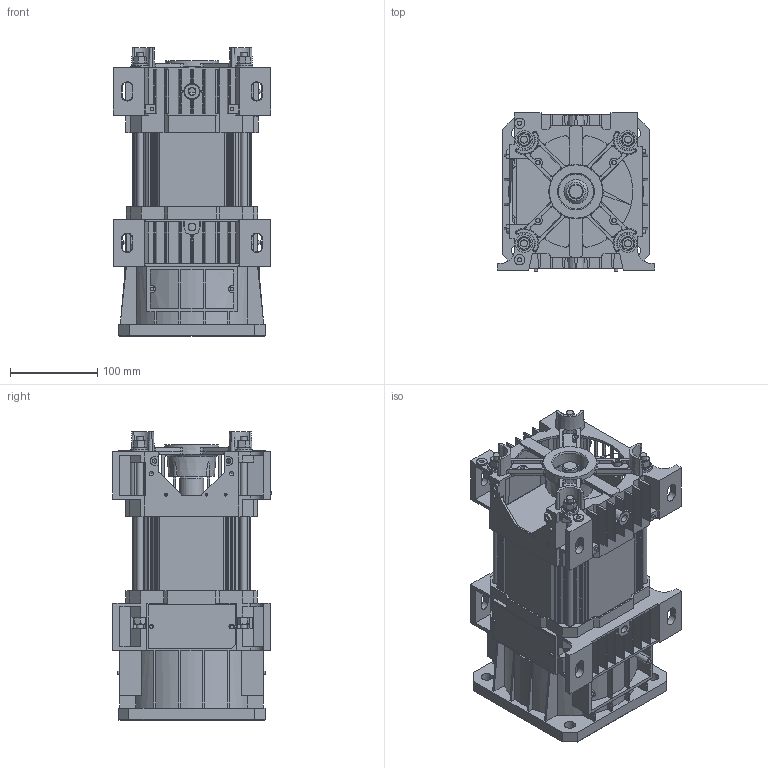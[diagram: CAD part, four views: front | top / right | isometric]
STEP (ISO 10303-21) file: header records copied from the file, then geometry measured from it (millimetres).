
FILE_DESCRIPTION(/* description */ ('Motore Tipo V34 Fl.155 F19-H95 SI Volano NO Piedi'),/* implementation_level */ '2;1');
FILE_NAME(/* name */ 'Y:\ServerTecnico\Mockup Motori x Sito Elmo\Mockup Tipo V34 Size 3 FL155 F19-H95 SI Volano.stp',/* time_stamp */ '2016-10-07T15:45:05+02:00',/* author */ ('aparmini'),/* organization */ (''),/* preprocessor_version */ 'ST-DEVELOPER v16.5',/* originating_system */ 'Autodesk Inventor 2017',/* authorisation */ '');
FILE_SCHEMA (('AUTOMOTIVE_DESIGN { 1 0 10303 214 3 1 1 }'));
Length unit declared in the file: millimetre
Products named in the file (8): Mockup Tipo V34 Size 3 FL155 F19-H95 SI Volano; Mockup CP3XD040N; Mockup CA3VD155N; Mockup Statore Size 3 - F19-H95 SI Volano; TGS10; TI08ML220; UNI 5587 - M8; DIN 125-2 - B 8,4
Assembly tree (20 placements, depth 2):
  Mockup Tipo V34 Size 3 FL155 F19-H95 SI Volano
    Mockup CP3XD040N
    Mockup CA3VD155N
    Mockup Statore Size 3 - F19-H95 SI Volano
    TGS10
    UNI 5587 - M8  x8
    TI08ML220  x4
    DIN 125-2 - B 8,4  x4
Bounding box: 180 x 181 x 330 mm (x, y, z)
Volume: 3100154.8 mm3; surface area: 644981.3 mm2
Topology: 20 solids, 20 shells, 1819 faces, 5040 edges, 3287 vertices
Faces by surface type: plane 1062, cone 378, cylinder 331, bspline 38, torus 10
Full cylindrical faces by diameter (mm): 3.2 x3, 4 x12, 4.917 x4, 5 x2, 6.647 x8, 8 x4, 8.4 x4, 12 x2, 16 x4, 17 x1, 19 x1, 20 x4, 21 x1, 27.5 x1, 30 x1, 31 x1, 32.5 x1, 40 x2, 40.1 x1, 42.5 x1, 46 x1, 72 x1, 145 x1, 153 x1
Entity records: 54689 total; most frequent: CARTESIAN_POINT 11163, ORIENTED_EDGE 9092, DIRECTION 9084, EDGE_CURVE 4546, AXIS2_PLACEMENT_3D 3086, VERTEX_POINT 3045, LINE 2912, VECTOR 2912
